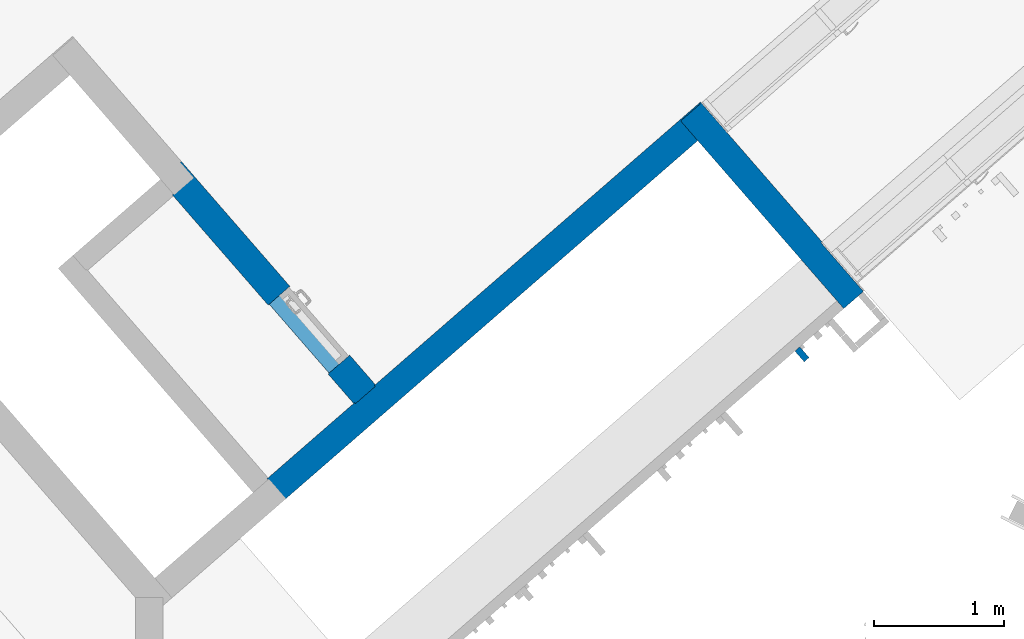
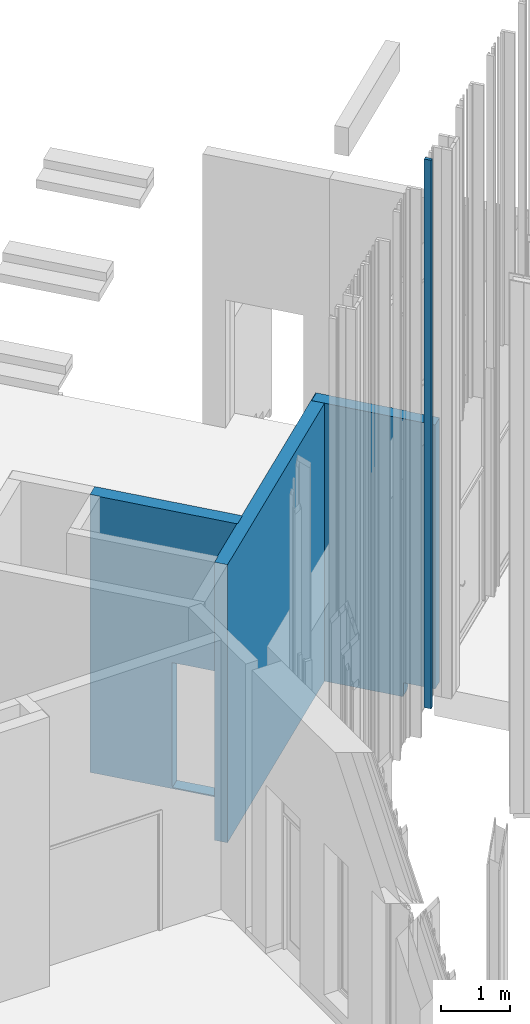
# One storey, part 202 of 390: 4 walls.
"""IFC2X3 building model written with IfcOpenShell, lengths in millimetres."""

from ifc_helpers import new_model, entity, si_unit, converted_unit, derived_unit, money_unit, direction, frame, origin_with_axes, place, context, subcontext, project, spatial, faceted_brep, material, material_list, type_object, element, save


model = new_model("IFC2X3")

# Units and contexts
model_context = context("Model", 3, precision=1e-05, world=origin_with_axes(), true_north=direction((0.0, 1.0)))
body_context = subcontext(model_context, "Body", "Model", "MODEL_VIEW")
ifc_project = project(units=[si_unit("LENGTHUNIT", "METRE", prefix="MILLI"), si_unit("AREAUNIT", "SQUARE_METRE"), si_unit("VOLUMEUNIT", "CUBIC_METRE"), converted_unit("PLANEANGLEUNIT", "DEGREE", entity("IfcPlaneAngleMeasure", 0.0174532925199), si_unit("PLANEANGLEUNIT", "RADIAN"), dimensions=[0, 0, 0, 0, 0, 0, 0]), si_unit("SOLIDANGLEUNIT", "STERADIAN"), money_unit("EUR"), converted_unit("TIMEUNIT", "Year", entity("IfcTimeMeasure", 31556926.0), si_unit("TIMEUNIT", "SECOND"), dimensions=[0, 0, 1, 0, 0, 0, 0]), si_unit("MASSUNIT", "GRAM", prefix="KILO"), si_unit("THERMODYNAMICTEMPERATUREUNIT", "DEGREE_CELSIUS"), si_unit("LUMINOUSINTENSITYUNIT", "LUMEN"), si_unit("ENERGYUNIT", "JOULE", prefix="MEGA"), derived_unit("THERMALCONDUCTANCEUNIT", [(si_unit("POWERUNIT", "WATT"), 1), (si_unit("LENGTHUNIT", "METRE"), -1), (si_unit("THERMODYNAMICTEMPERATUREUNIT", "KELVIN"), -1)]), derived_unit("SPECIFICHEATCAPACITYUNIT", [(si_unit("ENERGYUNIT", "JOULE"), 1), (si_unit("MASSUNIT", "GRAM", prefix="KILO"), -1), (si_unit("THERMODYNAMICTEMPERATUREUNIT", "KELVIN"), -1)]), derived_unit("MASSDENSITYUNIT", [(si_unit("MASSUNIT", "GRAM", prefix="KILO"), 1), (si_unit("VOLUMEUNIT", "CUBIC_METRE"), -1)])], contexts=[model_context])

# Site, building, storey
site_placement = place(None, origin_with_axes())
site = spatial("IfcSite", under=ifc_project, at=site_placement, Name="Site", CompositionType="ELEMENT")
building_placement = place(site_placement, origin_with_axes())
building = spatial("IfcBuilding", under=site, at=building_placement, Name="Building", CompositionType="ELEMENT")
storey_placement = place(building_placement, origin_with_axes())
storey = spatial("IfcBuildingStorey", under=building, at=storey_placement, Name="1 korrus", CompositionType="ELEMENT", Elevation=0.0)

# Walls
ifc_material_1 = material(Name="Krohv - Lubjakivi")
ifc_material_2 = material(Name="Raudbetoon - Konstruktsioon")
ifc_material_list_1 = material_list([ifc_material_1, ifc_material_2, ifc_material_1])
wall_type_1 = type_object("IfcWallType", Name="SS-10", PredefinedType="NOTDEFINED")
wall_1_placement = place(storey_placement, frame((139640.433436, 71599.1436834, -150.0), z_axis=(0.0, 0.0, 1.0), x_axis=(0.656059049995, -0.754709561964, 0.0)))
element("IfcWall", 1, at=wall_1_placement, inside=storey, type_object=wall_type_1, material=ifc_material_list_1, Name="SS-10", context=body_context, shape_type="Brep", body=[
    faceted_brep([(1269.99653123, 0.0, 2250.0), (1269.99653123, 0.0, 150.0), (1269.99653123, 0.0, 50.0), (-3.04403613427e-07, 0.0, 50.0), (-3.04403613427e-07, 0.0, 4950.0), (2269.99653123, 0.0, 4950.0), (2269.99653123, 0.0, 50.0), (1969.99653123, 0.0, 50.0), (1969.99653123, 0.0, 150.0), (1969.99653123, 0.0, 2250.0), (1269.99653123, -9.99999999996, 2250.0), (1269.99653123, -9.99999999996, 150.0), (1269.99653123, -9.99999999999, 50.0), (-5.75731462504e-07, -9.99999999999, 50.0), (-5.75731462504e-07, -9.99999999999, 4950.0), (2269.99653123, -9.99999999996, 4950.0), (2269.99653123, -9.99999999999, 50.0), (1969.99653123, -9.99999999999, 50.0), (1969.99653123, -9.99999999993, 150.0), (1969.99653123, -9.99999999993, 2250.0)], [[[0, 1, 2, 3, 4, 5, 6, 7, 8, 9]], [[1, 0, 10, 11]], [[1, 11, 12, 2]], [[12, 13, 3, 2]], [[13, 14, 4, 3]], [[5, 4, 14, 15]], [[6, 5, 15, 16]], [[7, 6, 16, 17]], [[18, 8, 7, 17]], [[9, 8, 18, 19]], [[0, 9, 19, 10]], [[19, 18, 17, 16, 15, 14, 13, 12, 11, 10]]]),
    faceted_brep([(2279.99653123, -9.99999999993, 0.0), (-5.75745673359e-07, -9.99999999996, 0.0), (-5.75745673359e-07, -9.99999999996, 4950.0), (2279.99653123, -9.99999999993, 4950.0), (1269.99653123, -9.99999999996, 2250.0), (1269.99653123, -9.99999999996, 150.0), (1269.99653123, -9.99999999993, 20.0), (1969.99653123, -9.99999999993, 20.0), (1969.99653123, -9.99999999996, 150.0), (1969.99653123, -9.99999999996, 2250.0), (2279.99653123, -210.0, 0.0), (-6.00242344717e-06, -210.0, 0.0), (-6.00242344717e-06, -210.0, 4950.0), (2279.99653123, -210.0, 4950.0), (1269.99653123, -210.0, 2250.0), (1269.99653123, -210.0, 150.0), (1269.99653123, -210.0, 20.0), (1969.99653123, -210.0, 20.0), (1969.99653123, -210.0, 150.0), (1969.99653123, -210.0, 2250.0)], [[[0, 1, 2, 3], [4, 5, 6, 7, 8, 9]], [[10, 11, 1, 0]], [[12, 2, 1, 11]], [[3, 2, 12, 13]], [[13, 10, 0, 3]], [[5, 4, 14, 15]], [[5, 15, 16, 6]], [[6, 16, 17, 7]], [[18, 8, 7, 17]], [[9, 8, 18, 19]], [[4, 9, 19, 14]], [[13, 12, 11, 10], [19, 18, 17, 16, 15, 14]]]),
    faceted_brep([(1269.99653123, -210.0, 2250.0), (1269.99653123, -210.0, 150.0), (1269.99653123, -210.0, 50.0), (149.999993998, -210.0, 50.0), (149.999993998, -210.0, 4950.0), (2269.99653123, -210.0, 4950.0), (2269.99653123, -210.0, 50.0), (1969.99653123, -210.0, 50.0), (1969.99653123, -210.0, 150.0), (1969.99653123, -210.0, 2250.0), (1269.99653123, -220.0, 2250.0), (1269.99653123, -220.0, 150.0), (1269.99653123, -220.0, 50.0), (149.999993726, -220.0, 50.0), (149.999993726, -220.0, 4950.0), (2269.99653123, -220.0, 4950.0), (2269.99653123, -220.0, 50.0), (1969.99653123, -220.0, 50.0), (1969.99653123, -220.0, 150.0), (1969.99653123, -220.0, 2250.0)], [[[0, 1, 2, 3, 4, 5, 6, 7, 8, 9]], [[1, 0, 10, 11]], [[1, 11, 12, 2]], [[12, 13, 3, 2]], [[13, 14, 4, 3]], [[5, 4, 14, 15]], [[6, 5, 15, 16]], [[7, 6, 16, 17]], [[18, 8, 7, 17]], [[9, 8, 18, 19]], [[0, 9, 19, 10]], [[19, 18, 17, 16, 15, 14, 13, 12, 11, 10]]]),
])
ifc_material_list_2 = material_list([ifc_material_2, ifc_material_1])
wall_type_2 = type_object("IfcWallType", Name="SS-11", PredefinedType="NOTDEFINED")
wall_2_placement = place(storey_placement, frame((144397.115227, 70844.7706804, -150.0), z_axis=(0.0, 0.0, 1.0), x_axis=(-0.656059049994, 0.754709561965, 0.0)))
element("IfcWall", 2, at=wall_2_placement, inside=storey, type_object=wall_type_2, material=ifc_material_list_2, Name="SS-11", context=body_context, shape_type="Brep", body=[
    faceted_brep([(-418.003763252, 0.0, 250.000000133), (-10.0037632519, 0.0, 250.000000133), (-10.0038902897, -200.000000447, 250.000000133), (-418.00389029, -200.0, 250.000000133), (-497.000031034, -200.0, 250.000001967), (-497.000025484, 0.0, 250.000001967), (-497.000025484, 0.0, 4950.0), (1410.00012384, 0.0, 4950.0), (1410.00012384, 0.0, 0.0), (0.0, 0.0, 0.0), (0.0, 0.0, 50.0000008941), (-10.0037632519, 0.0, 50.0), (-10.0038902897, -200.000000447, 50.0), (0.0, -200.000000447, 50.0000008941), (0.0, -200.000000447, 0.0), (1410.00012384, -200.000000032, 0.0), (1410.00012384, -200.0, 4950.0), (-497.000031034, -200.0, 4950.0)], [[[0, 1, 2, 3, 4, 5]], [[1, 0, 5, 6, 7, 8, 9, 10, 11]], [[12, 2, 1, 11]], [[2, 12, 13, 14, 15, 16, 17, 4, 3]], [[6, 5, 4, 17]], [[7, 6, 17, 16]], [[16, 15, 8, 7]], [[15, 14, 9, 8]], [[9, 14, 13, 10]], [[12, 11, 10, 13]]]),
    faceted_brep([(-5.7582383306e-08, -200.000000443, 50.0), (-0.000779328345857, -210.000053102, 50.0), (-0.00389664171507, -210.000265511, 250.000000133), (-5.97896132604e-06, -210.0, 4950.0), (-5.701515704e-06, -200.0, 4950.0), (1420.00012384, -200.000000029, 50.0), (1420.00012384, -210.0, 50.0), (1420.00012384, -210.0, 4950.0), (1420.00012384, -200.0, 4950.0)], [[[0, 1, 2, 3, 4]], [[1, 0, 5, 6]], [[1, 6, 7, 3, 2]], [[7, 8, 4, 3]], [[0, 4, 8, 5]], [[6, 5, 8, 7]]]),
])
ifc_material_list_3 = material_list([ifc_material_2, ifc_material_1, ifc_material_1])
wall_3_placement = place(storey_placement, frame((143603.283695, 71757.9693438, -150.0), z_axis=(0.0, 0.0, 1.0), x_axis=(-0.754709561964, -0.656059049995, 0.0)))
element("IfcWall", 3, at=wall_3_placement, inside=storey, type_object=wall_type_2, material=ifc_material_list_3, Name="SS-11", context=body_context, shape_type="Brep", body=[
    faceted_brep([(4345.43530589, 0.0, 4950.0), (0.0, 0.0, 4950.0), (-2.84217094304e-10, -200.0, 4950.0), (4345.43530018, -200.0, 4950.0), (4345.43530589, 0.0, 0.0), (0.0, 0.0, 0.0), (-2.84217094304e-10, -200.0, 0.0), (4345.43530018, -200.0, 0.0)], [[[0, 1, 2, 3]], [[4, 5, 1, 0]], [[2, 1, 5, 6]], [[3, 2, 6, 7]], [[3, 7, 4, 0]], [[7, 6, 5, 4]]]),
    faceted_brep([(3104.99999451, -200.0, 50.0), (-200.0, -200.0, 50.0), (-200.0, -200.0, 4950.0), (3104.99999451, -200.0, 4950.0), (-200.0, -210.0, 50.0), (3104.99999451, -210.0, 50.0), (-200.0, -210.0, 4950.0), (3104.99999451, -210.0, 4950.0)], [[[0, 1, 2, 3]], [[4, 1, 0, 5]], [[1, 4, 6, 2]], [[7, 3, 2, 6]], [[5, 0, 3, 7]], [[4, 5, 7, 6]]]),
    faceted_brep([(4195.43530018, -200.0, 50.0), (3304.99999451, -200.0, 50.0), (3304.99999451, -200.0, 4950.0), (4195.43530018, -200.0, 4950.0), (3304.99999451, -210.0, 50.0), (4195.4352999, -210.0, 50.0), (3304.99999451, -210.0, 4950.0), (4195.4352999, -210.0, 4950.0)], [[[0, 1, 2, 3]], [[4, 1, 0, 5]], [[1, 4, 6, 2]], [[7, 3, 2, 6]], [[5, 0, 3, 7]], [[4, 5, 7, 6]]]),
])
ifc_material_3 = material(Name="Site specified")
wall_type_3 = type_object("IfcWallType", Name="Puitfassaadi ribistik", PredefinedType="NOTDEFINED")
wall_4_placement = place(storey_placement, frame((144402.708791, 70118.8884256, 100.0), z_axis=(0.0, 0.0, 1.0), x_axis=(-0.754709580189, -0.65605902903, 0.0)))
element("IfcWall", 4, at=wall_4_placement, inside=storey, type_object=wall_type_3, material=ifc_material_3, Name="Site specified", context=body_context, shape_type="Brep", body=[
    faceted_brep([(-25.0, -54.5, 9765.0), (-25.0, -54.5, 0.0), (25.0, -54.5, 0.0), (25.0, -54.5, 9765.0), (-25.0, 54.5, 9765.0), (-25.0, 54.5, 0.0), (25.0, 54.5, 0.0), (25.0, 54.5, 9765.0)], [[[0, 1, 2, 3]], [[4, 5, 1, 0]], [[2, 1, 5, 6]], [[3, 2, 6, 7]], [[4, 0, 3, 7]], [[7, 6, 5, 4]]]),
])

save(model, "model.ifc")
